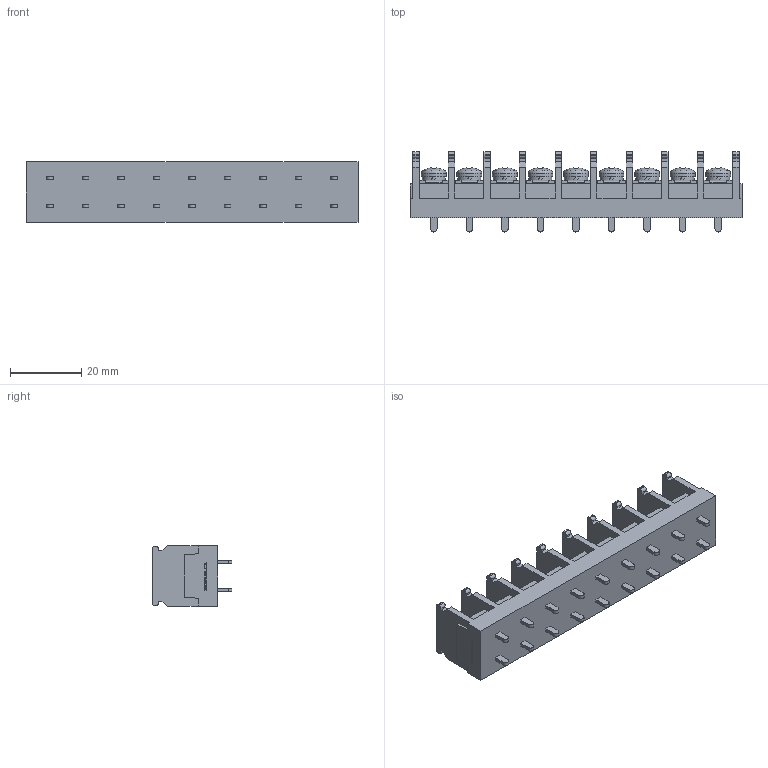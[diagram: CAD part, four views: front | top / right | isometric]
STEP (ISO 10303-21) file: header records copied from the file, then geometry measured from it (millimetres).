
FILE_DESCRIPTION(/* description */ ('Alibre Inc.'),/* implementation_level */ '2;1');
FILE_NAME(/* name */ 'export0',/* time_stamp */ '2015-10-17T15:36:27+09:00',/* author */ (''),/* organization */ (''),/* preprocessor_version */ 'ST-DEVELOPER v14',/* originating_system */ 'Alibre',/* authorisation */ '');
FILE_SCHEMA (('CONFIG_CONTROL_DESIGN'));
Length unit declared in the file: centimetre
Products named in the file (1): ID_1
Bounding box: 93.4 x 22.5 x 17 mm (x, y, z)
Volume: 17891.2 mm3; surface area: 10600.3 mm2
Topology: 1 solids, 17 shells, 1056 faces, 2871 edges, 1905 vertices
Faces by surface type: plane 786, bspline 104, cylinder 103, cone 36, torus 18, sphere 9
Full cylindrical faces by diameter (mm): 4 x9, 6.5 x9, 7 x9
Entity records: 32154 total; most frequent: CARTESIAN_POINT 6948, ORIENTED_EDGE 5616, DIRECTION 4104, EDGE_CURVE 2808, VECTOR 2054, LINE 2054, VERTEX_POINT 1878, AXIS2_PLACEMENT_3D 1408
